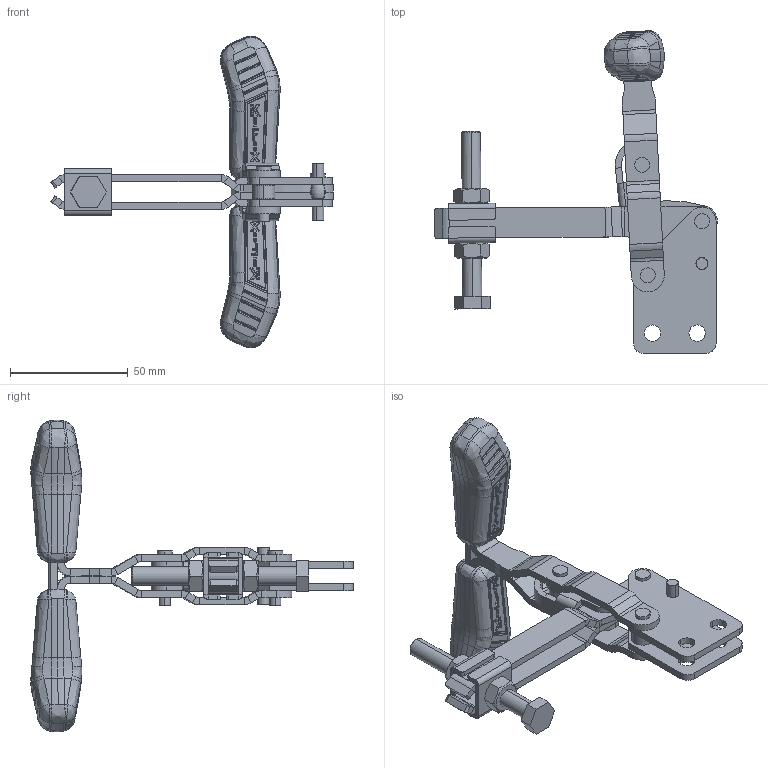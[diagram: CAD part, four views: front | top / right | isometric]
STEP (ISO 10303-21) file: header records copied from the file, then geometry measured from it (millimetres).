
FILE_DESCRIPTION (( 'STEP AP203' ), '1' );
FILE_NAME ('KF-017 RTL.STEP', '2018-06-04T18:35:20', ( 'Ricardo' ), ( '' ), 'SwSTEP 2.0', 'SolidWorks 2018', '' );
FILE_SCHEMA (( 'CONFIG_CONTROL_DESIGN' ));
Length unit declared in the file: millimetre
Products named in the file (14): 01.10325; 05.20017; 07.60005; 01.10324; KF-017 RTL; 04.10001; 06.50002; 04.20001; 14.10001; 02.11001; 11.50002; 03.14001_Direita; 12.50003; 06.50001
Assembly tree (22 placements, depth 2):
  KF-017 RTL
    02.11001  x2
    03.14001_Direita  x2
    06.50001  x2
    05.20017  x2
    01.10324  x2
    04.10001
    06.50002  x2
    04.20001
    14.10001  x2
    11.50002  x2
    12.50003
    01.10325
    07.60005  x2
Bounding box: 119.94 x 136.72 x 132.26 mm (x, y, z)
Volume: 78881.8 mm3; surface area: 52754.6 mm2
Topology: 22 solids, 22 shells, 1725 faces, 4324 edges, 2672 vertices
Faces by surface type: bspline 538, cylinder 532, plane 511, sphere 100, cone 38, torus 6
Entity records: 35345 total; most frequent: CARTESIAN_POINT 14541, ORIENTED_EDGE 4504, DIRECTION 3263, EDGE_CURVE 2252, VERTEX_POINT 1399, AXIS2_PLACEMENT_3D 1201, EDGE_LOOP 963, ADVANCED_FACE 902
